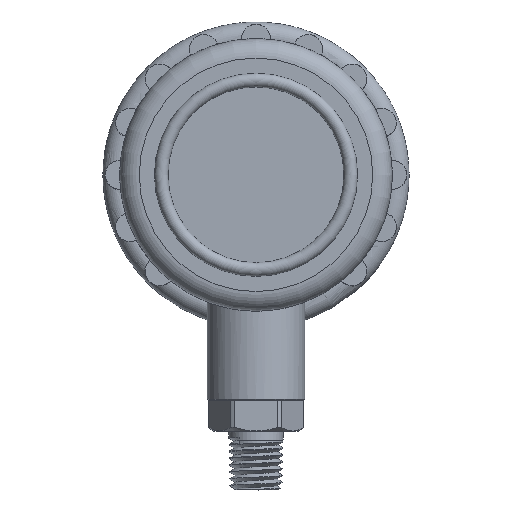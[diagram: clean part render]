
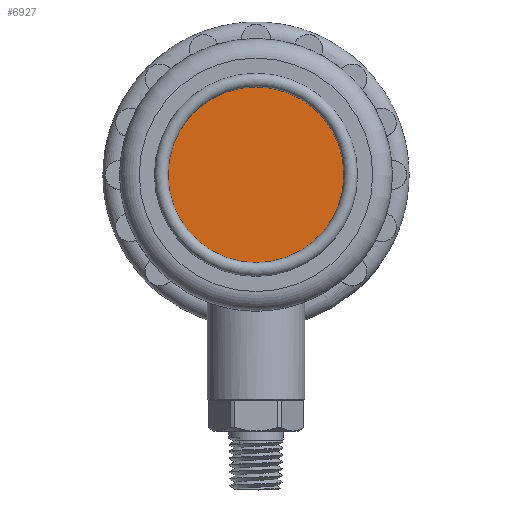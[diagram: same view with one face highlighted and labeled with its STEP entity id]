
A CAD part, top view. The second image highlights one B-rep face of the part: STEP entity #6927.
In plain terms, the highlighted planar face has unit normal (0, 0, 1).
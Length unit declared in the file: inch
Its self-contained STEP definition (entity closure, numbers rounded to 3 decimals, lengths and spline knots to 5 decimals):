
#384=PLANE('',#7224);
#804=FACE_OUTER_BOUND('',#1219,.T.);
#1219=EDGE_LOOP('',(#6269));
#1295=CIRCLE('',#7221,0.9);
#3492=VERTEX_POINT('',#15472);
#4437=EDGE_CURVE('',#3492,#3492,#1295,.T.);
#6269=ORIENTED_EDGE('',*,*,#4437,.T.);
#6927=ADVANCED_FACE('',(#804),#384,.T.);
#7221=AXIS2_PLACEMENT_3D('',#15473,#8371,#8372);
#7224=AXIS2_PLACEMENT_3D('',#15477,#8377,#8378);
#8371=DIRECTION('center_axis',(0.,0.,1.));
#8372=DIRECTION('ref_axis',(1.,0.,0.));
#8377=DIRECTION('center_axis',(0.,0.,1.));
#8378=DIRECTION('ref_axis',(1.,0.,0.));
#15472=CARTESIAN_POINT('',(-0.9,0.,0.1));
#15473=CARTESIAN_POINT('Origin',(0.,0.,0.1));
#15477=CARTESIAN_POINT('Origin',(0.,0.,0.1));
